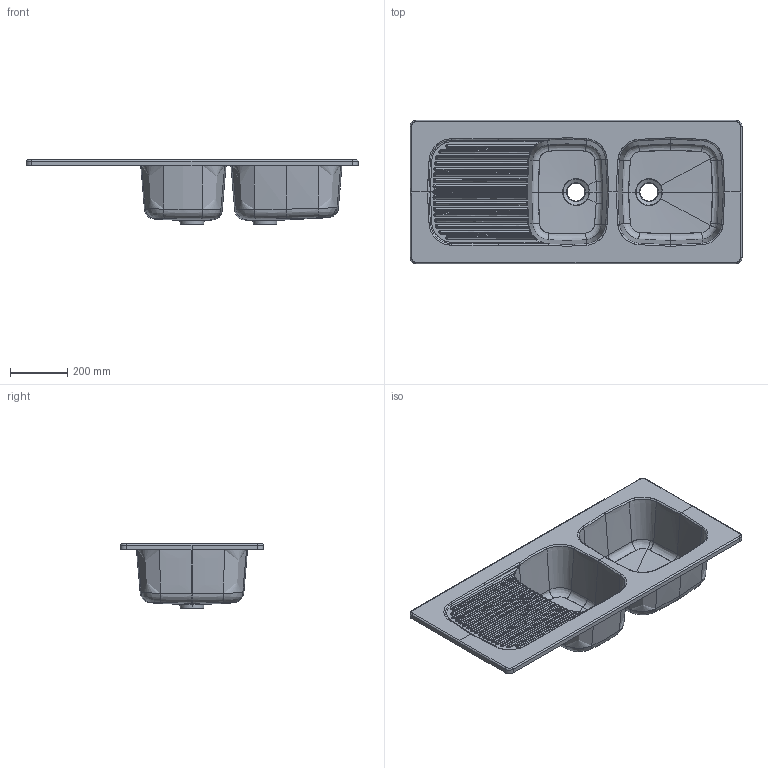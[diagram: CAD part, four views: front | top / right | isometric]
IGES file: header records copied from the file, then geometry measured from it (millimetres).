
Start section: START RECORD GO HERE.
Global section: file name: 5100_3D.igs; native system: DASSAULT SYSTEMES CATIA V5 R19 - www.3ds.com; preprocessor: CATIA Version 5 Release 19 SP 5 ; author: gioge; organization: LAPTOP-G94B6G74; date: 20201024.094532; units: millimetre
Bounding box: 1160 x 500 x 224 mm (x, y, z)
Surface area: 2017963.5 mm2 (no closed solid volume)
Topology: 0 solids, 0 shells, 477 faces, 2248 edges, 2246 vertices
Faces by surface type: bspline 335, revolution 106, plane 36
